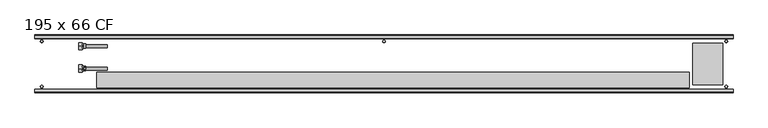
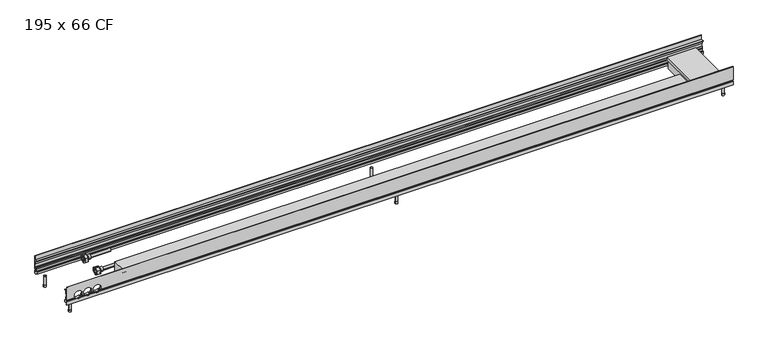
"""IFC4 building model written with IfcOpenShell, lengths in millimetres: proxy geometry, Mohlenhof_Внутрипольный конвектор_QSKM CF : 195 x 66 CF."""

from ifc_helpers import new_model, si_unit, point, frame, frame_2d, origin, place, context, project, spatial, polyline, circle_curve, ellipse_curve, trimmed, segment, composite_curve, outline, extrude, source, transform, mapped, element, save
from ifc_brep_helpers import plane_surface, cylinder_surface, revolved_surface, advanced_brep


def proxy_195_x_66_cf_9923b446(model_context):
    return source(origin(), model_context, "Body", "SolidModel", [
        extrude(outline(composite_curve([segment(trimmed(circle_curve(frame_2d((0.0, -273.5)), 4.5), [point((-4.5, -273.5))], [point((4.5, -273.5))], False, "CARTESIAN"), True, "CONTINUOUS"), segment(trimmed(circle_curve(frame_2d((0.0, -273.5)), 4.5), [point((4.5, -273.5))], [point((-4.5, -273.5))], False, "CARTESIAN"), True, "CONTINUOUS")], self_intersect=False)), frame((0.0, 0.0, -110.0), z_axis=(0.0, 0.0, 1.0), x_axis=(1.0, 0.0, 0.0)), (0.0, 0.0, 1.0), 7.0),
        extrude(outline(composite_curve([segment(trimmed(circle_curve(frame_2d((0.0, -273.5)), 4.0), [point((-4.0, -273.5))], [point((4.0, -273.5))], False, "CARTESIAN"), True, "CONTINUOUS"), segment(trimmed(circle_curve(frame_2d((0.0, -273.5)), 4.0), [point((4.0, -273.5))], [point((-4.0, -273.5))], False, "CARTESIAN"), True, "CONTINUOUS")], self_intersect=False)), frame((0.0, 0.0, -103.0), z_axis=(0.0, 0.0, 1.0), x_axis=(1.0, 0.0, 0.0)), (0.0, 0.0, 1.0), 32.5),
        extrude(outline(composite_curve([segment(trimmed(circle_curve(frame_2d((0.0, -121.5)), 4.5), [point((-4.5, -121.5))], [point((4.5, -121.5))], False, "CARTESIAN"), True, "CONTINUOUS"), segment(trimmed(circle_curve(frame_2d((0.0, -121.5)), 4.5), [point((4.5, -121.5))], [point((-4.5, -121.5))], False, "CARTESIAN"), True, "CONTINUOUS")], self_intersect=False)), frame((0.0, 0.0, -110.0), z_axis=(0.0, 0.0, 1.0), x_axis=(1.0, 0.0, 0.0)), (0.0, 0.0, 1.0), 7.0),
        extrude(outline(composite_curve([segment(trimmed(circle_curve(frame_2d((0.0, -121.5)), 4.0), [point((-4.0, -121.5))], [point((4.0, -121.5))], False, "CARTESIAN"), True, "CONTINUOUS"), segment(trimmed(circle_curve(frame_2d((0.0, -121.5)), 4.0), [point((4.0, -121.5))], [point((-4.0, -121.5))], False, "CARTESIAN"), True, "CONTINUOUS")], self_intersect=False)), frame((0.0, 0.0, -103.0), z_axis=(0.0, 0.0, 1.0), x_axis=(1.0, 0.0, 0.0)), (0.0, 0.0, 1.0), 32.5),
        advanced_brep(
        [(-1014.0, -213.0, -41.0), (-1014.0, -201.0, -41.0), (-1014.0, -225.0, -41.0), (-1001.5, -220.5, -41.0), (-1001.5, -205.5, -41.0), (-1001.5, -213.0, -41.0), (-1009.0, -220.5, -41.0), (-1009.0, -205.5, -41.0)],
        [
            (0, 1),
            (1, 2, circle_curve(frame((-1014.0, -213.0, -41.0), z_axis=(-1.0, 0.0, 0.0), x_axis=(0.0, 1.0, 0.0)), 12.0)),
            (2, 0),
            (2, 1, circle_curve(frame((-1014.0, -213.0, -41.0), z_axis=(-1.0, 0.0, 0.0), x_axis=(0.0, 1.0, 0.0)), 12.0)),
            (3, 4, circle_curve(frame((-1001.5, -213.0, -41.0), z_axis=(1.0, 0.0, 0.0), x_axis=(0.0, 1.0, 0.0)), 7.5)),
            (4, 5),
            (5, 3),
            (4, 3, circle_curve(frame((-1001.5, -213.0, -41.0), z_axis=(1.0, 0.0, 0.0), x_axis=(0.0, 1.0, 0.0)), 7.5)),
            (6, 7, circle_curve(frame((-1009.0, -213.0, -41.0), z_axis=(1.0, 0.0, 0.0), x_axis=(0.0, 1.0, 0.0)), 7.5)),
            (7, 4),
            (3, 6),
            (7, 6, circle_curve(frame((-1009.0, -213.0, -41.0), z_axis=(1.0, 0.0, 0.0), x_axis=(0.0, 1.0, 0.0)), 7.5)),
            (1, 7),
            (6, 2),
        ],
        [
            plane_surface(frame((-1014.0, -213.0, -41.0), z_axis=(-1.0, 0.0, 0.0), x_axis=(0.0, 1.0, 0.0))),
            plane_surface(frame((-1001.5, -213.0, -41.0), z_axis=(1.0, 0.0, 0.0), x_axis=(0.0, 1.0, 0.0))),
            cylinder_surface(frame((-1014.0, -213.0, -41.0), z_axis=(-1.0, 0.0, 0.0), x_axis=(0.0, 1.0, 0.0)), 7.5),
            revolved_surface(polyline([(-1009.0, -205.5, -41.0), (-1014.0, -201.0, -41.0)]), (-1014.0, -213.0, -41.0), (-1.0, 0.0, 0.0)),
        ],
        [
            (0, [[1, 2, 3]]),
            (0, [[-3, 4, -1]]),
            (1, [[5, 6, 7]]),
            (1, [[8, -7, -6]]),
            (2, [[9, 10, -5, 11]]),
            (2, [[12, -11, -8, -10]]),
            (3, [[-2, 13, -9, 14]]),
            (3, [[-4, -14, -12, -13]]),
        ],
    ),
        extrude(outline(polyline([(-213.0, -27.1435935), (-201.0, -34.0717968), (-201.0, -47.9282032), (-213.0, -54.8564065), (-225.0, -47.9282032), (-225.0, -34.0717968), (-213.0, -27.1435935)]), holes=[composite_curve([segment(trimmed(circle_curve(frame_2d((-213.0, -41.0)), 8.5), [point((-204.5, -41.0))], [point((-221.5, -41.0))], True, "CARTESIAN"), True, "CONTINUOUS"), segment(trimmed(circle_curve(frame_2d((-213.0, -41.0)), 8.5), [point((-221.5, -41.0))], [point((-204.5, -41.0))], True, "CARTESIAN"), True, "CONTINUOUS")], self_intersect=False)]), frame((-1025.0, 0.0, 0.0), z_axis=(1.0, 0.0, 0.0), x_axis=(0.0, 1.0, 0.0)), (0.0, 0.0, 1.0), 11.0),
        advanced_brep(
        [(-1014.0, -138.0, -41.0), (-1014.0, -126.0, -41.0), (-1014.0, -150.0, -41.0), (-1001.5, -145.5, -41.0), (-1001.5, -130.5, -41.0), (-1001.5, -138.0, -41.0), (-1009.0, -145.5, -41.0), (-1009.0, -130.5, -41.0)],
        [
            (0, 1),
            (1, 2, circle_curve(frame((-1014.0, -138.0, -41.0), z_axis=(-1.0, 0.0, 0.0), x_axis=(0.0, 1.0, 0.0)), 12.0)),
            (2, 0),
            (2, 1, circle_curve(frame((-1014.0, -138.0, -41.0), z_axis=(-1.0, 0.0, 0.0), x_axis=(0.0, 1.0, 0.0)), 12.0)),
            (3, 4, circle_curve(frame((-1001.5, -138.0, -41.0), z_axis=(1.0, 0.0, 0.0), x_axis=(0.0, 1.0, 0.0)), 7.5)),
            (4, 5),
            (5, 3),
            (4, 3, circle_curve(frame((-1001.5, -138.0, -41.0), z_axis=(1.0, 0.0, 0.0), x_axis=(0.0, 1.0, 0.0)), 7.5)),
            (6, 7, circle_curve(frame((-1009.0, -138.0, -41.0), z_axis=(1.0, 0.0, 0.0), x_axis=(0.0, 1.0, 0.0)), 7.5)),
            (7, 4),
            (3, 6),
            (7, 6, circle_curve(frame((-1009.0, -138.0, -41.0), z_axis=(1.0, 0.0, 0.0), x_axis=(0.0, 1.0, 0.0)), 7.5)),
            (1, 7),
            (6, 2),
        ],
        [
            plane_surface(frame((-1014.0, -138.0, -41.0), z_axis=(-1.0, 0.0, 0.0), x_axis=(0.0, 1.0, 0.0))),
            plane_surface(frame((-1001.5, -138.0, -41.0), z_axis=(1.0, 0.0, 0.0), x_axis=(0.0, 1.0, 0.0))),
            cylinder_surface(frame((-1014.0, -138.0, -41.0), z_axis=(-1.0, 0.0, 0.0), x_axis=(0.0, 1.0, 0.0)), 7.5),
            revolved_surface(polyline([(-1009.0, -130.5, -41.0), (-1014.0, -126.0, -41.0)]), (-1014.0, -138.0, -41.0), (-1.0, 0.0, 0.0)),
        ],
        [
            (0, [[1, 2, 3]]),
            (0, [[-3, 4, -1]]),
            (1, [[5, 6, 7]]),
            (1, [[8, -7, -6]]),
            (2, [[9, 10, -5, 11]]),
            (2, [[12, -11, -8, -10]]),
            (3, [[-2, 13, -9, 14]]),
            (3, [[-4, -14, -12, -13]]),
        ],
    ),
        extrude(outline(polyline([(-138.0, -27.1435935), (-126.0, -34.0717968), (-126.0, -47.9282032), (-138.0, -54.8564065), (-150.0, -47.9282032), (-150.0, -34.0717968), (-138.0, -27.1435935)]), holes=[composite_curve([segment(trimmed(circle_curve(frame_2d((-138.0, -41.0)), 8.5), [point((-129.5, -41.0))], [point((-146.5, -41.0))], True, "CARTESIAN"), True, "CONTINUOUS"), segment(trimmed(circle_curve(frame_2d((-138.0, -41.0)), 8.5), [point((-146.5, -41.0))], [point((-129.5, -41.0))], True, "CARTESIAN"), True, "CONTINUOUS")], self_intersect=False)]), frame((-1025.0, 0.0, 0.0), z_axis=(1.0, 0.0, 0.0), x_axis=(0.0, 1.0, 0.0)), (0.0, 0.0, 1.0), 11.0),
        extrude(outline(composite_curve([segment(trimmed(circle_curve(frame_2d((-1150.0, -273.5)), 4.5), [point((-1154.5, -273.5))], [point((-1145.5, -273.5))], False, "CARTESIAN"), True, "CONTINUOUS"), segment(trimmed(circle_curve(frame_2d((-1150.0, -273.5)), 4.5), [point((-1145.5, -273.5))], [point((-1154.5, -273.5))], False, "CARTESIAN"), True, "CONTINUOUS")], self_intersect=False)), frame((0.0, 0.0, -110.0), z_axis=(0.0, 0.0, 1.0), x_axis=(1.0, 0.0, 0.0)), (0.0, 0.0, 1.0), 7.0),
        extrude(outline(composite_curve([segment(trimmed(circle_curve(frame_2d((-1150.0, -273.5)), 4.0), [point((-1154.0, -273.5))], [point((-1146.0, -273.5))], False, "CARTESIAN"), True, "CONTINUOUS"), segment(trimmed(circle_curve(frame_2d((-1150.0, -273.5)), 4.0), [point((-1146.0, -273.5))], [point((-1154.0, -273.5))], False, "CARTESIAN"), True, "CONTINUOUS")], self_intersect=False)), frame((0.0, 0.0, -103.0), z_axis=(0.0, 0.0, 1.0), x_axis=(1.0, 0.0, 0.0)), (0.0, 0.0, 1.0), 32.5),
        extrude(outline(composite_curve([segment(trimmed(circle_curve(frame_2d((-1150.0, -121.5)), 4.5), [point((-1154.5, -121.5))], [point((-1145.5, -121.5))], False, "CARTESIAN"), True, "CONTINUOUS"), segment(trimmed(circle_curve(frame_2d((-1150.0, -121.5)), 4.5), [point((-1145.5, -121.5))], [point((-1154.5, -121.5))], False, "CARTESIAN"), True, "CONTINUOUS")], self_intersect=False)), frame((0.0, 0.0, -110.0), z_axis=(0.0, 0.0, 1.0), x_axis=(1.0, 0.0, 0.0)), (0.0, 0.0, 1.0), 7.0),
        extrude(outline(composite_curve([segment(trimmed(circle_curve(frame_2d((-1150.0, -121.5)), 4.0), [point((-1154.0, -121.5))], [point((-1146.0, -121.5))], False, "CARTESIAN"), True, "CONTINUOUS"), segment(trimmed(circle_curve(frame_2d((-1150.0, -121.5)), 4.0), [point((-1146.0, -121.5))], [point((-1154.0, -121.5))], False, "CARTESIAN"), True, "CONTINUOUS")], self_intersect=False)), frame((0.0, 0.0, -103.0), z_axis=(0.0, 0.0, 1.0), x_axis=(1.0, 0.0, 0.0)), (0.0, 0.0, 1.0), 32.5),
        extrude(outline(composite_curve([segment(trimmed(circle_curve(frame_2d((1150.0, -273.5)), 4.5), [point((1145.5, -273.5))], [point((1154.5, -273.5))], False, "CARTESIAN"), True, "CONTINUOUS"), segment(trimmed(circle_curve(frame_2d((1150.0, -273.5)), 4.5), [point((1154.5, -273.5))], [point((1145.5, -273.5))], False, "CARTESIAN"), True, "CONTINUOUS")], self_intersect=False)), frame((0.0, 0.0, -110.0), z_axis=(0.0, 0.0, 1.0), x_axis=(1.0, 0.0, 0.0)), (0.0, 0.0, 1.0), 7.0),
        extrude(outline(composite_curve([segment(trimmed(circle_curve(frame_2d((1150.0, -273.5)), 4.0), [point((1146.0, -273.5))], [point((1154.0, -273.5))], False, "CARTESIAN"), True, "CONTINUOUS"), segment(trimmed(circle_curve(frame_2d((1150.0, -273.5)), 4.0), [point((1154.0, -273.5))], [point((1146.0, -273.5))], False, "CARTESIAN"), True, "CONTINUOUS")], self_intersect=False)), frame((0.0, 0.0, -103.0), z_axis=(0.0, 0.0, 1.0), x_axis=(1.0, 0.0, 0.0)), (0.0, 0.0, 1.0), 32.5),
        extrude(outline(composite_curve([segment(trimmed(circle_curve(frame_2d((1150.0, -121.5)), 4.5), [point((1145.5, -121.5))], [point((1154.5, -121.5))], False, "CARTESIAN"), True, "CONTINUOUS"), segment(trimmed(circle_curve(frame_2d((1150.0, -121.5)), 4.5), [point((1154.5, -121.5))], [point((1145.5, -121.5))], False, "CARTESIAN"), True, "CONTINUOUS")], self_intersect=False)), frame((0.0, 0.0, -110.0), z_axis=(0.0, 0.0, 1.0), x_axis=(1.0, 0.0, 0.0)), (0.0, 0.0, 1.0), 7.0),
        extrude(outline(composite_curve([segment(trimmed(circle_curve(frame_2d((1150.0, -121.5)), 4.0), [point((1146.0, -121.5))], [point((1154.0, -121.5))], False, "CARTESIAN"), True, "CONTINUOUS"), segment(trimmed(circle_curve(frame_2d((1150.0, -121.5)), 4.0), [point((1154.0, -121.5))], [point((1146.0, -121.5))], False, "CARTESIAN"), True, "CONTINUOUS")], self_intersect=False)), frame((0.0, 0.0, -103.0), z_axis=(0.0, 0.0, 1.0), x_axis=(1.0, 0.0, 0.0)), (0.0, 0.0, 1.0), 32.5),
        extrude(outline(polyline([(-62.5, 1126.0), (-44.5, 1126.0), (-44.5, 1135.0), (-29.5, 1135.0), (-29.5, 1138.0), (-19.5, 1138.0), (-19.5, 1038.0), (-29.5, 1038.0), (-29.5, 1041.0), (-62.5, 1041.0), (-62.5, 1126.0)])), frame((0.0, -267.5, 0.0), z_axis=(0.0, 1.0, 0.0), x_axis=(0.0, 0.0, 1.0)), (0.0, 0.0, 1.0), 140.0),
        extrude(outline(polyline([(1025.0, -225.87), (1025.0, -277.18), (-965.0, -277.18), (-965.0, -225.87), (1025.0, -225.87)])), frame((0.0, 0.0, -62.5), z_axis=(0.0, 0.0, 1.0), x_axis=(1.0, 0.0, 0.0)), (0.0, 0.0, 1.0), 43.62),
        extrude(outline(composite_curve([segment(trimmed(circle_curve(frame_2d((-213.0, -41.0)), 5.0), [point((-218.0, -41.0))], [point((-208.0, -41.0))], False, "CARTESIAN"), True, "CONTINUOUS"), segment(trimmed(circle_curve(frame_2d((-213.0, -41.0)), 5.0), [point((-208.0, -41.0))], [point((-218.0, -41.0))], False, "CARTESIAN"), True, "CONTINUOUS")], self_intersect=False)), frame((-1025.0, 0.0, 0.0), z_axis=(1.0, 0.0, 0.0), x_axis=(0.0, 1.0, 0.0)), (0.0, 0.0, 1.0), 95.0),
        extrude(outline(composite_curve([segment(trimmed(circle_curve(frame_2d((-138.0, -41.0)), 5.0), [point((-143.0, -41.0))], [point((-133.0, -41.0))], False, "CARTESIAN"), True, "CONTINUOUS"), segment(trimmed(circle_curve(frame_2d((-138.0, -41.0)), 5.0), [point((-133.0, -41.0))], [point((-143.0, -41.0))], False, "CARTESIAN"), True, "CONTINUOUS")], self_intersect=False)), frame((-1025.0, 0.0, 0.0), z_axis=(1.0, 0.0, 0.0), x_axis=(0.0, 1.0, 0.0)), (0.0, 0.0, 1.0), 95.0),
        advanced_brep(
        [(1173.0, -295.0, -48.5473602), (1173.0, -293.5, -49.2468216), (1173.0, -292.5, -49.2468216), (1173.0, -292.5, -46.0008038), (1173.0, -290.0, -46.0008038), (1173.0, -290.0, -56.5008038), (1173.0, -292.5, -56.5008038), (1173.0, -292.5, -53.2468216), (1173.0, -293.5, -53.2468216), (1173.0, -295.0, -53.9462831), (1173.0, -295.0, -66.5), (1173.0, -291.0, -66.5), (1173.0, -291.0, -65.2), (1173.0, -293.0, -65.2), (1173.0, -293.0, -62.5), (1173.0, -282.0, -62.5), (1173.0, -282.0, -54.9172677), (1173.0, -283.4172677, -53.5), (1173.0, -287.0, -53.5), (1173.0, -287.0, -45.91), (1173.0, -289.0, -43.91), (1173.0, -289.0, -39.5), (1173.0, -290.0, -39.5), (1173.0, -290.0, -43.5), (1173.0, -292.4956439, -43.5), (1173.0, -292.4956439, -23.0), (1173.0, -290.0, -23.0), (1173.0, -290.0, -27.0), (1173.0, -289.0, -27.0), (1173.0, -289.0, -17.0), (1173.0, -283.3956439, -17.0), (1173.0, -283.3956439, -15.0), (1173.0, -293.4, -15.0), (1173.0, -293.4, 0.0), (1173.0, -295.0, 0.0), (-1173.0, -295.0, -48.5473602), (-1173.0, -295.0, 0.0), (-1173.0, -293.4, 0.0), (-1173.0, -293.4, -15.0), (-1173.0, -283.3956439, -15.0), (-1173.0, -283.3956439, -17.0), (-1173.0, -289.0, -17.0), (-1173.0, -289.0, -27.0), (-1173.0, -290.0, -27.0), (-1173.0, -290.0, -23.0), (-1173.0, -292.4956439, -23.0), (-1173.0, -292.4956439, -43.5), (-1173.0, -290.0, -43.5), (-1173.0, -290.0, -39.5), (-1173.0, -289.0, -39.5), (-1173.0, -289.0, -43.91), (-1173.0, -287.0, -45.91), (-1173.0, -287.0, -53.5), (-1173.0, -283.4172677, -53.5), (-1173.0, -282.0, -54.9172677), (-1173.0, -282.0, -62.5), (-1173.0, -293.0, -62.5), (-1173.0, -293.0, -65.2), (-1173.0, -291.0, -65.2), (-1173.0, -291.0, -66.5), (-1173.0, -295.0, -66.5), (-1173.0, -295.0, -53.9462831), (-1173.0, -293.5, -53.2468216), (-1173.0, -292.5, -53.2468216), (-1173.0, -292.5, -56.5008038), (-1173.0, -290.0, -56.5008038), (-1173.0, -290.0, -46.0008038), (-1173.0, -292.5, -46.0008038), (-1173.0, -292.5, -49.2468216), (-1173.0, -293.5, -49.2468216), (-1053.7585985, -295.0, -48.5473602), (-1054.155283, -293.5, -49.2468216), (-1145.844717, -293.5, -49.2468216), (-1146.2414015, -295.0, -48.5473602), (-1113.2414015, -295.0, -48.5473602), (-1119.7585985, -295.0, -48.5473602), (-1120.155283, -293.5, -49.2468216), (-1112.844717, -293.5, -49.2468216), (-1080.2414015, -295.0, -48.5473602), (-1086.7585985, -295.0, -48.5473602), (-1087.155283, -293.5, -49.2468216), (-1079.844717, -293.5, -49.2468216), (-1054.155283, -292.5, -49.2468216), (-1145.844717, -292.5, -49.2468216), (-1120.155283, -292.5, -49.2468216), (-1112.844717, -292.5, -49.2468216), (-1087.155283, -292.5, -49.2468216), (-1079.844717, -292.5, -49.2468216), (-1052.6911648, -292.5, -46.0008038), (-1147.3088352, -292.5, -46.0008038), (-1118.6911648, -292.5, -46.0008038), (-1114.3088352, -292.5, -46.0008038), (-1085.6911648, -292.5, -46.0008038), (-1081.3088352, -292.5, -46.0008038), (-1052.6911648, -290.0, -46.0008038), (-1147.3088352, -290.0, -46.0008038), (-1118.6911648, -290.0, -46.0008038), (-1114.3088352, -290.0, -46.0008038), (-1085.6911648, -290.0, -46.0008038), (-1081.3088352, -290.0, -46.0008038), (-1142.328032, -292.5, -53.2468216), (-1123.671968, -292.5, -53.2468216), (-1109.328032, -292.5, -53.2468216), (-1090.671968, -292.5, -53.2468216), (-1076.328032, -292.5, -53.2468216), (-1057.671968, -292.5, -53.2468216), (-1057.671968, -293.5, -53.2468216), (-1142.328032, -293.5, -53.2468216), (-1123.671968, -293.5, -53.2468216), (-1109.328032, -293.5, -53.2468216), (-1090.671968, -293.5, -53.2468216), (-1076.328032, -293.5, -53.2468216), (-1058.6280208, -295.0, -53.9462831), (-1141.3719792, -295.0, -53.9462831), (-1124.6280208, -295.0, -53.9462831), (-1108.3719792, -295.0, -53.9462831), (-1091.6280208, -295.0, -53.9462831), (-1075.3719792, -295.0, -53.9462831), (-1139.7064841, -282.0, -54.9172677), (-1126.2935159, -282.0, -54.9172677), (-1106.7064841, -282.0, -54.9172677), (-1093.2935159, -282.0, -54.9172677), (-1073.7064841, -282.0, -54.9172677), (-1060.2935159, -282.0, -54.9172677), (-1058.0, -283.4172677, -53.5), (-1142.0, -283.4172677, -53.5), (-1124.0, -283.4172677, -53.5), (-1109.0, -283.4172677, -53.5), (-1091.0, -283.4172677, -53.5), (-1076.0, -283.4172677, -53.5), (-1058.0, -287.0, -53.5), (-1142.0, -287.0, -53.5), (-1124.0, -287.0, -53.5), (-1109.0, -287.0, -53.5), (-1091.0, -287.0, -53.5), (-1076.0, -287.0, -53.5), (-1052.6629187, -287.0, -45.91), (-1147.3370813, -287.0, -45.91), (-1118.6629187, -287.0, -45.91), (-1114.3370813, -287.0, -45.91), (-1085.6629187, -287.0, -45.91), (-1081.3370813, -287.0, -45.91), (-1052.1948691, -289.0, -43.91), (-1147.8051309, -289.0, -43.91), (-1118.1948691, -289.0, -43.91), (-1114.8051309, -289.0, -43.91), (-1085.1948691, -289.0, -43.91), (-1081.8051309, -289.0, -43.91), (-1052.0, -289.0, -41.5), (-1052.1339313, -289.0, -39.5), (-1147.8660687, -289.0, -39.5), (-1148.0, -289.0, -41.5), (-1118.0, -289.0, -41.5), (-1118.1339313, -289.0, -39.5), (-1114.8660687, -289.0, -39.5), (-1115.0, -289.0, -41.5), (-1085.0, -289.0, -41.5), (-1085.1339313, -289.0, -39.5), (-1081.8660687, -289.0, -39.5), (-1082.0, -289.0, -41.5), (-1052.1339313, -290.0, -39.5), (-1147.8660687, -290.0, -39.5), (-1118.1339313, -290.0, -39.5), (-1114.8660687, -290.0, -39.5), (-1085.1339313, -290.0, -39.5), (-1081.8660687, -290.0, -39.5), (-1052.0, -290.0, -41.5), (-1052.1339313, -290.0, -43.5), (-1147.8660687, -290.0, -43.5), (-1148.0, -290.0, -41.5), (-1118.0, -290.0, -41.5), (-1118.1339313, -290.0, -43.5), (-1114.8660687, -290.0, -43.5), (-1115.0, -290.0, -41.5), (-1085.0, -290.0, -41.5), (-1085.1339313, -290.0, -43.5), (-1081.8660687, -290.0, -43.5), (-1082.0, -290.0, -41.5), (-1052.1339313, -292.4956439, -43.5), (-1147.8660687, -292.4956439, -43.5), (-1118.1339313, -292.4956439, -43.5), (-1114.8660687, -292.4956439, -43.5), (-1085.1339313, -292.4956439, -43.5), (-1081.8660687, -292.4956439, -43.5), (-1052.0, -292.4956439, -41.5), (-1082.0, -292.4956439, -41.5), (-1085.0, -292.4956439, -41.5), (-1115.0, -292.4956439, -41.5), (-1118.0, -292.4956439, -41.5), (-1148.0, -292.4956439, -41.5), (-1136.8405729, -290.0, -27.0), (-1129.1594271, -290.0, -27.0), (-1103.8405729, -290.0, -27.0), (-1096.1594271, -290.0, -27.0), (-1070.8405729, -290.0, -27.0), (-1063.1594271, -290.0, -27.0), (-1063.1594271, -289.0, -27.0), (-1136.8405729, -289.0, -27.0), (-1129.1594271, -289.0, -27.0), (-1103.8405729, -289.0, -27.0), (-1096.1594271, -289.0, -27.0), (-1070.8405729, -289.0, -27.0), (-1148.0, -295.0, -41.5), (-1118.0, -295.0, -41.5), (-1115.0, -295.0, -41.5), (-1085.0, -295.0, -41.5), (-1082.0, -295.0, -41.5), (-1052.0, -295.0, -41.5)],
        [
            (0, 1),
            (1, 2),
            (2, 3),
            (3, 4),
            (4, 5),
            (5, 6),
            (6, 7),
            (7, 8),
            (8, 9),
            (9, 10),
            (10, 11),
            (11, 12),
            (12, 13),
            (13, 14),
            (14, 15),
            (15, 16),
            (16, 17),
            (17, 18),
            (18, 19),
            (19, 20),
            (20, 21),
            (21, 22),
            (22, 23),
            (23, 24),
            (24, 25),
            (25, 26),
            (26, 27),
            (27, 28),
            (28, 29),
            (29, 30),
            (30, 31),
            (31, 32),
            (32, 33),
            (33, 34),
            (34, 0),
            (35, 36),
            (36, 37),
            (37, 38),
            (38, 39),
            (39, 40),
            (40, 41),
            (41, 42),
            (42, 43),
            (43, 44),
            (44, 45),
            (45, 46),
            (46, 47),
            (47, 48),
            (48, 49),
            (49, 50),
            (50, 51),
            (51, 52),
            (52, 53),
            (53, 54),
            (54, 55),
            (55, 56),
            (56, 57),
            (57, 58),
            (58, 59),
            (59, 60),
            (60, 61),
            (61, 62),
            (62, 63),
            (63, 64),
            (64, 65),
            (65, 66),
            (66, 67),
            (67, 68),
            (68, 69),
            (69, 35),
            (0, 70),
            (70, 71, ellipse_curve(frame((-1067.0, -310.1131126, -41.5), z_axis=(0.0, 0.42261826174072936, 0.9063077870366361), x_axis=(0.0, -0.906307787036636, 0.4226182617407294)), 35.4930237, 15.0)),
            (71, 1),
            (69, 72),
            (72, 73, ellipse_curve(frame((-1133.0, -310.1131126, -41.5), z_axis=(0.0, 0.42261826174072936, 0.9063077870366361), x_axis=(0.0, -0.906307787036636, 0.4226182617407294)), 35.4930237, 15.0)),
            (73, 35),
            (74, 75),
            (75, 76, ellipse_curve(frame((-1133.0, -310.1131126, -41.5), z_axis=(0.0, 0.42261826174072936, 0.9063077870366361), x_axis=(0.0, -0.906307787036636, 0.4226182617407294)), 35.4930237, 15.0)),
            (76, 77),
            (77, 74, ellipse_curve(frame((-1100.0, -310.1131126, -41.5), z_axis=(0.0, 0.42261826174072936, 0.9063077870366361), x_axis=(0.0, -0.906307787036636, 0.4226182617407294)), 35.4930237, 15.0)),
            (78, 79),
            (79, 80, ellipse_curve(frame((-1100.0, -310.1131126, -41.5), z_axis=(0.0, 0.42261826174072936, 0.9063077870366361), x_axis=(0.0, -0.906307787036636, 0.4226182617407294)), 35.4930237, 15.0)),
            (80, 81),
            (81, 78, ellipse_curve(frame((-1067.0, -310.1131126, -41.5), z_axis=(0.0, 0.42261826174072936, 0.9063077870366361), x_axis=(0.0, -0.906307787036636, 0.4226182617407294)), 35.4930237, 15.0)),
            (71, 82),
            (82, 2),
            (68, 83),
            (83, 72),
            (76, 84),
            (84, 85),
            (85, 77),
            (80, 86),
            (86, 87),
            (87, 81),
            (82, 88, circle_curve(frame((-1067.0, -292.5, -41.5), z_axis=(0.0, -1.0, 0.0), x_axis=(1.0, 0.0, 0.0)), 15.0)),
            (88, 3),
            (67, 89),
            (89, 83, circle_curve(frame((-1133.0, -292.5, -41.5), z_axis=(0.0, -1.0, 0.0), x_axis=(1.0, 0.0, 0.0)), 15.0)),
            (84, 90, circle_curve(frame((-1133.0, -292.5, -41.5), z_axis=(0.0, -1.0, 0.0), x_axis=(1.0, 0.0, 0.0)), 15.0)),
            (90, 91),
            (91, 85, circle_curve(frame((-1100.0, -292.5, -41.5), z_axis=(0.0, -1.0, 0.0), x_axis=(1.0, 0.0, 0.0)), 15.0)),
            (86, 92, circle_curve(frame((-1100.0, -292.5, -41.5), z_axis=(0.0, -1.0, 0.0), x_axis=(1.0, 0.0, 0.0)), 15.0)),
            (92, 93),
            (93, 87, circle_curve(frame((-1067.0, -292.5, -41.5), z_axis=(0.0, -1.0, 0.0), x_axis=(1.0, 0.0, 0.0)), 15.0)),
            (88, 94),
            (94, 4),
            (66, 95),
            (95, 89),
            (90, 96),
            (96, 97),
            (97, 91),
            (92, 98),
            (98, 99),
            (99, 93),
            (94, 99, circle_curve(frame((-1067.0, -290.0, -41.5), z_axis=(0.0, 1.0, 0.0), x_axis=(1.0, 0.0, 0.0)), 15.0)),
            (98, 97, circle_curve(frame((-1100.0, -290.0, -41.5), z_axis=(0.0, 1.0, 0.0), x_axis=(1.0, 0.0, 0.0)), 15.0)),
            (96, 95, circle_curve(frame((-1133.0, -290.0, -41.5), z_axis=(0.0, 1.0, 0.0), x_axis=(1.0, 0.0, 0.0)), 15.0)),
            (65, 5),
            (64, 6),
            (63, 100),
            (100, 101, circle_curve(frame((-1133.0, -292.5, -41.5), z_axis=(0.0, -1.0, 0.0), x_axis=(1.0, 0.0, 0.0)), 15.0)),
            (101, 102),
            (102, 103, circle_curve(frame((-1100.0, -292.5, -41.5), z_axis=(0.0, -1.0, 0.0), x_axis=(1.0, 0.0, 0.0)), 15.0)),
            (103, 104),
            (104, 105, circle_curve(frame((-1067.0, -292.5, -41.5), z_axis=(0.0, -1.0, 0.0), x_axis=(1.0, 0.0, 0.0)), 15.0)),
            (105, 7),
            (105, 106),
            (106, 8),
            (62, 107),
            (107, 100),
            (101, 108),
            (108, 109),
            (109, 102),
            (103, 110),
            (110, 111),
            (111, 104),
            (106, 112, ellipse_curve(frame((-1067.0, -268.3088597, -41.5), z_axis=(0.0, 0.4226182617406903, -0.9063077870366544), x_axis=(0.0, -0.9063077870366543, -0.42261826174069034)), 35.4930237, 15.0)),
            (112, 9),
            (61, 113),
            (113, 107, ellipse_curve(frame((-1133.0, -268.3088597, -41.5), z_axis=(0.0, 0.4226182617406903, -0.9063077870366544), x_axis=(0.0, -0.9063077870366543, -0.42261826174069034)), 35.4930237, 15.0)),
            (108, 114, ellipse_curve(frame((-1133.0, -268.3088597, -41.5), z_axis=(0.0, 0.4226182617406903, -0.9063077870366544), x_axis=(0.0, -0.9063077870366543, -0.42261826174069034)), 35.4930237, 15.0)),
            (114, 115),
            (115, 109, ellipse_curve(frame((-1100.0, -268.3088597, -41.5), z_axis=(0.0, 0.4226182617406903, -0.9063077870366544), x_axis=(0.0, -0.9063077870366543, -0.42261826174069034)), 35.4930237, 15.0)),
            (110, 116, ellipse_curve(frame((-1100.0, -268.3088597, -41.5), z_axis=(0.0, 0.4226182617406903, -0.9063077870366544), x_axis=(0.0, -0.9063077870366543, -0.42261826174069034)), 35.4930237, 15.0)),
            (116, 117),
            (117, 111, ellipse_curve(frame((-1067.0, -268.3088597, -41.5), z_axis=(0.0, 0.4226182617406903, -0.9063077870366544), x_axis=(0.0, -0.9063077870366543, -0.42261826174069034)), 35.4930237, 15.0)),
            (112, 117, circle_curve(frame((-1067.0, -295.0, -41.5), z_axis=(0.0, 1.0, 0.0), x_axis=(1.0, 0.0, 0.0)), 15.0)),
            (116, 115, circle_curve(frame((-1100.0, -295.0, -41.5), z_axis=(0.0, 1.0, 0.0), x_axis=(1.0, 0.0, 0.0)), 15.0)),
            (114, 113, circle_curve(frame((-1133.0, -295.0, -41.5), z_axis=(0.0, 1.0, 0.0), x_axis=(1.0, 0.0, 0.0)), 15.0)),
            (60, 10),
            (59, 11),
            (58, 12),
            (57, 13),
            (56, 14),
            (55, 15),
            (54, 118),
            (118, 119, circle_curve(frame((-1133.0, -282.0, -41.5), z_axis=(0.0, -1.0, 0.0), x_axis=(1.0, 0.0, 0.0)), 15.0)),
            (119, 120),
            (120, 121, circle_curve(frame((-1100.0, -282.0, -41.5), z_axis=(0.0, -1.0, 0.0), x_axis=(1.0, 0.0, 0.0)), 15.0)),
            (121, 122),
            (122, 123, circle_curve(frame((-1067.0, -282.0, -41.5), z_axis=(0.0, -1.0, 0.0), x_axis=(1.0, 0.0, 0.0)), 15.0)),
            (123, 16),
            (123, 124, ellipse_curve(frame((-1067.0, -295.4172677, -41.5), z_axis=(0.0, -0.7071067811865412, -0.7071067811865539), x_axis=(0.0, -0.7071067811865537, 0.7071067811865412)), 21.2132034, 15.0)),
            (124, 17),
            (53, 125),
            (125, 118, ellipse_curve(frame((-1133.0, -295.4172677, -41.5), z_axis=(0.0, -0.7071067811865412, -0.7071067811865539), x_axis=(0.0, -0.7071067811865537, 0.7071067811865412)), 21.2132034, 15.0)),
            (119, 126, ellipse_curve(frame((-1133.0, -295.4172677, -41.5), z_axis=(0.0, -0.7071067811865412, -0.7071067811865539), x_axis=(0.0, -0.7071067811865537, 0.7071067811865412)), 21.2132034, 15.0)),
            (126, 127),
            (127, 120, ellipse_curve(frame((-1100.0, -295.4172677, -41.5), z_axis=(0.0, -0.7071067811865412, -0.7071067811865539), x_axis=(0.0, -0.7071067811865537, 0.7071067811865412)), 21.2132034, 15.0)),
            (121, 128, ellipse_curve(frame((-1100.0, -295.4172677, -41.5), z_axis=(0.0, -0.7071067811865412, -0.7071067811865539), x_axis=(0.0, -0.7071067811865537, 0.7071067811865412)), 21.2132034, 15.0)),
            (128, 129),
            (129, 122, ellipse_curve(frame((-1067.0, -295.4172677, -41.5), z_axis=(0.0, -0.7071067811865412, -0.7071067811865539), x_axis=(0.0, -0.7071067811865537, 0.7071067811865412)), 21.2132034, 15.0)),
            (124, 130),
            (130, 18),
            (52, 131),
            (131, 125),
            (126, 132),
            (132, 133),
            (133, 127),
            (128, 134),
            (134, 135),
            (135, 129),
            (130, 136, circle_curve(frame((-1067.0, -287.0, -41.5), z_axis=(0.0, -1.0, 0.0), x_axis=(1.0, 0.0, 0.0)), 15.0)),
            (136, 19),
            (51, 137),
            (137, 131, circle_curve(frame((-1133.0, -287.0, -41.5), z_axis=(0.0, -1.0, 0.0), x_axis=(1.0, 0.0, 0.0)), 15.0)),
            (132, 138, circle_curve(frame((-1133.0, -287.0, -41.5), z_axis=(0.0, -1.0, 0.0), x_axis=(1.0, 0.0, 0.0)), 15.0)),
            (138, 139),
            (139, 133, circle_curve(frame((-1100.0, -287.0, -41.5), z_axis=(0.0, -1.0, 0.0), x_axis=(1.0, 0.0, 0.0)), 15.0)),
            (134, 140, circle_curve(frame((-1100.0, -287.0, -41.5), z_axis=(0.0, -1.0, 0.0), x_axis=(1.0, 0.0, 0.0)), 15.0)),
            (140, 141),
            (141, 135, circle_curve(frame((-1067.0, -287.0, -41.5), z_axis=(0.0, -1.0, 0.0), x_axis=(1.0, 0.0, 0.0)), 15.0)),
            (136, 142, ellipse_curve(frame((-1067.0, -291.41, -41.5), z_axis=(0.0, -0.7071067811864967, -0.7071067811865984), x_axis=(0.0, -0.7071067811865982, 0.7071067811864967)), 21.2132034, 15.0)),
            (142, 20),
            (50, 143),
            (143, 137, ellipse_curve(frame((-1133.0, -291.41, -41.5), z_axis=(0.0, -0.7071067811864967, -0.7071067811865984), x_axis=(0.0, -0.7071067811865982, 0.7071067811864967)), 21.2132034, 15.0)),
            (138, 144, ellipse_curve(frame((-1133.0, -291.41, -41.5), z_axis=(0.0, -0.7071067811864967, -0.7071067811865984), x_axis=(0.0, -0.7071067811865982, 0.7071067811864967)), 21.2132034, 15.0)),
            (144, 145),
            (145, 139, ellipse_curve(frame((-1100.0, -291.41, -41.5), z_axis=(0.0, -0.7071067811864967, -0.7071067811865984), x_axis=(0.0, -0.7071067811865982, 0.7071067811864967)), 21.2132034, 15.0)),
            (140, 146, ellipse_curve(frame((-1100.0, -291.41, -41.5), z_axis=(0.0, -0.7071067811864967, -0.7071067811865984), x_axis=(0.0, -0.7071067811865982, 0.7071067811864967)), 21.2132034, 15.0)),
            (146, 147),
            (147, 141, ellipse_curve(frame((-1067.0, -291.41, -41.5), z_axis=(0.0, -0.7071067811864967, -0.7071067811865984), x_axis=(0.0, -0.7071067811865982, 0.7071067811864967)), 21.2132034, 15.0)),
            (142, 148, circle_curve(frame((-1067.0, -289.0, -41.5), z_axis=(0.0, -1.0, 0.0), x_axis=(1.0, 0.0, 0.0)), 15.0)),
            (148, 149, circle_curve(frame((-1067.0, -289.0, -41.5), z_axis=(0.0, -1.0, 0.0), x_axis=(1.0, 0.0, 0.0)), 15.0)),
            (149, 21),
            (49, 150),
            (150, 151, circle_curve(frame((-1133.0, -289.0, -41.5), z_axis=(0.0, -1.0, 0.0), x_axis=(1.0, 0.0, 0.0)), 15.0)),
            (151, 143, circle_curve(frame((-1133.0, -289.0, -41.5), z_axis=(0.0, -1.0, 0.0), x_axis=(1.0, 0.0, 0.0)), 15.0)),
            (144, 152, circle_curve(frame((-1133.0, -289.0, -41.5), z_axis=(0.0, -1.0, 0.0), x_axis=(1.0, 0.0, 0.0)), 15.0)),
            (152, 153, circle_curve(frame((-1133.0, -289.0, -41.5), z_axis=(0.0, -1.0, 0.0), x_axis=(1.0, 0.0, 0.0)), 15.0)),
            (153, 154),
            (154, 155, circle_curve(frame((-1100.0, -289.0, -41.5), z_axis=(0.0, -1.0, 0.0), x_axis=(1.0, 0.0, 0.0)), 15.0)),
            (155, 145, circle_curve(frame((-1100.0, -289.0, -41.5), z_axis=(0.0, -1.0, 0.0), x_axis=(1.0, 0.0, 0.0)), 15.0)),
            (146, 156, circle_curve(frame((-1100.0, -289.0, -41.5), z_axis=(0.0, -1.0, 0.0), x_axis=(1.0, 0.0, 0.0)), 15.0)),
            (156, 157, circle_curve(frame((-1100.0, -289.0, -41.5), z_axis=(0.0, -1.0, 0.0), x_axis=(1.0, 0.0, 0.0)), 15.0)),
            (157, 158),
            (158, 159, circle_curve(frame((-1067.0, -289.0, -41.5), z_axis=(0.0, -1.0, 0.0), x_axis=(1.0, 0.0, 0.0)), 15.0)),
            (159, 147, circle_curve(frame((-1067.0, -289.0, -41.5), z_axis=(0.0, -1.0, 0.0), x_axis=(1.0, 0.0, 0.0)), 15.0)),
            (149, 160),
            (160, 22),
            (48, 161),
            (161, 150),
            (153, 162),
            (162, 163),
            (163, 154),
            (157, 164),
            (164, 165),
            (165, 158),
            (160, 166, circle_curve(frame((-1067.0, -290.0, -41.5), z_axis=(0.0, 1.0, 0.0), x_axis=(1.0, 0.0, 0.0)), 15.0)),
            (166, 167, circle_curve(frame((-1067.0, -290.0, -41.5), z_axis=(0.0, 1.0, 0.0), x_axis=(1.0, 0.0, 0.0)), 15.0)),
            (167, 23),
            (47, 168),
            (168, 169, circle_curve(frame((-1133.0, -290.0, -41.5), z_axis=(0.0, 1.0, 0.0), x_axis=(1.0, 0.0, 0.0)), 15.0)),
            (169, 161, circle_curve(frame((-1133.0, -290.0, -41.5), z_axis=(0.0, 1.0, 0.0), x_axis=(1.0, 0.0, 0.0)), 15.0)),
            (162, 170, circle_curve(frame((-1133.0, -290.0, -41.5), z_axis=(0.0, 1.0, 0.0), x_axis=(1.0, 0.0, 0.0)), 15.0)),
            (170, 171, circle_curve(frame((-1133.0, -290.0, -41.5), z_axis=(0.0, 1.0, 0.0), x_axis=(1.0, 0.0, 0.0)), 15.0)),
            (171, 172),
            (172, 173, circle_curve(frame((-1100.0, -290.0, -41.5), z_axis=(0.0, 1.0, 0.0), x_axis=(1.0, 0.0, 0.0)), 15.0)),
            (173, 163, circle_curve(frame((-1100.0, -290.0, -41.5), z_axis=(0.0, 1.0, 0.0), x_axis=(1.0, 0.0, 0.0)), 15.0)),
            (164, 174, circle_curve(frame((-1100.0, -290.0, -41.5), z_axis=(0.0, 1.0, 0.0), x_axis=(1.0, 0.0, 0.0)), 15.0)),
            (174, 175, circle_curve(frame((-1100.0, -290.0, -41.5), z_axis=(0.0, 1.0, 0.0), x_axis=(1.0, 0.0, 0.0)), 15.0)),
            (175, 176),
            (176, 177, circle_curve(frame((-1067.0, -290.0, -41.5), z_axis=(0.0, 1.0, 0.0), x_axis=(1.0, 0.0, 0.0)), 15.0)),
            (177, 165, circle_curve(frame((-1067.0, -290.0, -41.5), z_axis=(0.0, 1.0, 0.0), x_axis=(1.0, 0.0, 0.0)), 15.0)),
            (167, 178),
            (178, 24),
            (46, 179),
            (179, 168),
            (171, 180),
            (180, 181),
            (181, 172),
            (175, 182),
            (182, 183),
            (183, 176),
            (178, 184, circle_curve(frame((-1067.0, -292.4956439, -41.5), z_axis=(0.0, -1.0, 0.0), x_axis=(1.0, 0.0, 0.0)), 15.0)),
            (184, 185, circle_curve(frame((-1067.0, -292.4956439, -41.5), z_axis=(0.0, -1.0, 0.0), x_axis=(1.0, 0.0, 0.0)), 15.0)),
            (185, 183, circle_curve(frame((-1067.0, -292.4956439, -41.5), z_axis=(0.0, -1.0, 0.0), x_axis=(1.0, 0.0, 0.0)), 15.0)),
            (182, 186, circle_curve(frame((-1100.0, -292.4956439, -41.5), z_axis=(0.0, -1.0, 0.0), x_axis=(1.0, 0.0, 0.0)), 15.0)),
            (186, 187, circle_curve(frame((-1100.0, -292.4956439, -41.5), z_axis=(0.0, -1.0, 0.0), x_axis=(1.0, 0.0, 0.0)), 15.0)),
            (187, 181, circle_curve(frame((-1100.0, -292.4956439, -41.5), z_axis=(0.0, -1.0, 0.0), x_axis=(1.0, 0.0, 0.0)), 15.0)),
            (180, 188, circle_curve(frame((-1133.0, -292.4956439, -41.5), z_axis=(0.0, -1.0, 0.0), x_axis=(1.0, 0.0, 0.0)), 15.0)),
            (188, 189, circle_curve(frame((-1133.0, -292.4956439, -41.5), z_axis=(0.0, -1.0, 0.0), x_axis=(1.0, 0.0, 0.0)), 15.0)),
            (189, 179, circle_curve(frame((-1133.0, -292.4956439, -41.5), z_axis=(0.0, -1.0, 0.0), x_axis=(1.0, 0.0, 0.0)), 15.0)),
            (45, 25),
            (44, 26),
            (43, 190),
            (190, 191, circle_curve(frame((-1133.0, -290.0, -41.5), z_axis=(0.0, 1.0, 0.0), x_axis=(1.0, 0.0, 0.0)), 15.0)),
            (191, 192),
            (192, 193, circle_curve(frame((-1100.0, -290.0, -41.5), z_axis=(0.0, 1.0, 0.0), x_axis=(1.0, 0.0, 0.0)), 15.0)),
            (193, 194),
            (194, 195, circle_curve(frame((-1067.0, -290.0, -41.5), z_axis=(0.0, 1.0, 0.0), x_axis=(1.0, 0.0, 0.0)), 15.0)),
            (195, 27),
            (195, 196),
            (196, 28),
            (42, 197),
            (197, 190),
            (191, 198),
            (198, 199),
            (199, 192),
            (193, 200),
            (200, 201),
            (201, 194),
            (196, 201, circle_curve(frame((-1067.0, -289.0, -41.5), z_axis=(0.0, -1.0, 0.0), x_axis=(1.0, 0.0, 0.0)), 15.0)),
            (200, 199, circle_curve(frame((-1100.0, -289.0, -41.5), z_axis=(0.0, -1.0, 0.0), x_axis=(1.0, 0.0, 0.0)), 15.0)),
            (198, 197, circle_curve(frame((-1133.0, -289.0, -41.5), z_axis=(0.0, -1.0, 0.0), x_axis=(1.0, 0.0, 0.0)), 15.0)),
            (41, 29),
            (40, 30),
            (39, 31),
            (38, 32),
            (37, 33),
            (36, 34),
            (73, 202, circle_curve(frame((-1133.0, -295.0, -41.5), z_axis=(0.0, 1.0, 0.0), x_axis=(1.0, 0.0, 0.0)), 15.0)),
            (202, 203, circle_curve(frame((-1133.0, -295.0, -41.5), z_axis=(0.0, 1.0, 0.0), x_axis=(1.0, 0.0, 0.0)), 15.0)),
            (203, 75, circle_curve(frame((-1133.0, -295.0, -41.5), z_axis=(0.0, 1.0, 0.0), x_axis=(1.0, 0.0, 0.0)), 15.0)),
            (74, 204, circle_curve(frame((-1100.0, -295.0, -41.5), z_axis=(0.0, 1.0, 0.0), x_axis=(1.0, 0.0, 0.0)), 15.0)),
            (204, 205, circle_curve(frame((-1100.0, -295.0, -41.5), z_axis=(0.0, 1.0, 0.0), x_axis=(1.0, 0.0, 0.0)), 15.0)),
            (205, 79, circle_curve(frame((-1100.0, -295.0, -41.5), z_axis=(0.0, 1.0, 0.0), x_axis=(1.0, 0.0, 0.0)), 15.0)),
            (78, 206, circle_curve(frame((-1067.0, -295.0, -41.5), z_axis=(0.0, 1.0, 0.0), x_axis=(1.0, 0.0, 0.0)), 15.0)),
            (206, 207, circle_curve(frame((-1067.0, -295.0, -41.5), z_axis=(0.0, 1.0, 0.0), x_axis=(1.0, 0.0, 0.0)), 15.0)),
            (207, 70, circle_curve(frame((-1067.0, -295.0, -41.5), z_axis=(0.0, 1.0, 0.0), x_axis=(1.0, 0.0, 0.0)), 15.0)),
            (151, 169),
            (189, 202),
            (203, 188),
            (170, 152),
            (155, 173),
            (187, 204),
            (205, 186),
            (174, 156),
            (159, 177),
            (185, 206),
            (207, 184),
            (166, 148),
        ],
        [
            plane_surface(frame((1173.0, -293.0, -62.5), z_axis=(1.0, 0.0, 0.0), x_axis=(0.0, 0.0, 1.0))),
            plane_surface(frame((-1173.0, -293.0, -62.5), z_axis=(-1.0, 0.0, 0.0), x_axis=(0.0, 0.0, 1.0))),
            plane_surface(frame((1173.0, -295.0, -48.5473602), z_axis=(0.0, -0.42261826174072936, -0.9063077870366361), x_axis=(-1.0, 0.0, 0.0))),
            plane_surface(frame((1173.0, -293.5, -49.2468216), z_axis=(0.0, 0.0, -1.0), x_axis=(-1.0, 0.0, 0.0))),
            plane_surface(frame((1173.0, -292.5, -49.2468216), z_axis=(0.0, 1.0, 0.0), x_axis=(-1.0, 0.0, 0.0))),
            plane_surface(frame((1173.0, -292.5, -46.0008038), z_axis=(0.0, 0.0, -1.0), x_axis=(-1.0, 0.0, 0.0))),
            plane_surface(frame((1173.0, -290.0, -46.0008038), z_axis=(0.0, -1.0, 0.0), x_axis=(-1.0, 0.0, 0.0))),
            plane_surface(frame((1173.0, -290.0, -56.5008038), z_axis=(0.0, 0.0, 1.0), x_axis=(-1.0, 0.0, 0.0))),
            plane_surface(frame((1173.0, -292.5, -56.5008038), z_axis=(0.0, 1.0, 0.0), x_axis=(-1.0, 0.0, 0.0))),
            plane_surface(frame((1173.0, -292.5, -53.2468216), z_axis=(0.0, 0.0, 1.0), x_axis=(-1.0, 0.0, 0.0))),
            plane_surface(frame((1173.0, -293.5, -53.2468216), z_axis=(0.0, -0.4226182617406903, 0.9063077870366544), x_axis=(-1.0, 0.0, 0.0))),
            plane_surface(frame((1173.0, -295.0, -53.9462831), z_axis=(0.0, -1.0, 0.0), x_axis=(-1.0, 0.0, 0.0))),
            plane_surface(frame((1173.0, -295.0, -66.5), z_axis=(0.0, 0.0, -1.0), x_axis=(-1.0, 0.0, 0.0))),
            plane_surface(frame((1173.0, -291.0, -66.5), z_axis=(0.0, 1.0, 0.0), x_axis=(-1.0, 0.0, 0.0))),
            plane_surface(frame((1173.0, -291.0, -65.2), z_axis=(0.0, 0.0, 1.0), x_axis=(-1.0, 0.0, 0.0))),
            plane_surface(frame((1173.0, -293.0, -65.2), z_axis=(0.0, 1.0, 0.0), x_axis=(-1.0, 0.0, 0.0))),
            plane_surface(frame((1173.0, -293.0, -62.5), z_axis=(0.0, 0.0, -1.0), x_axis=(-1.0, 0.0, 0.0))),
            plane_surface(frame((1173.0, -282.0, -62.5), z_axis=(0.0, 1.0, 0.0), x_axis=(-1.0, 0.0, 0.0))),
            plane_surface(frame((1173.0, -282.0, -54.9172677), z_axis=(0.0, 0.7071067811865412, 0.7071067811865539), x_axis=(-1.0, 0.0, 0.0))),
            plane_surface(frame((1173.0, -283.4172677, -53.5), z_axis=(0.0, 0.0, 1.0), x_axis=(-1.0, 0.0, 0.0))),
            plane_surface(frame((1173.0, -287.0, -53.5), z_axis=(0.0, 1.0, 0.0), x_axis=(-1.0, 0.0, 0.0))),
            plane_surface(frame((1173.0, -287.0, -45.91), z_axis=(0.0, 0.7071067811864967, 0.7071067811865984), x_axis=(-1.0, 0.0, 0.0))),
            plane_surface(frame((1173.0, -289.0, -43.91), z_axis=(0.0, 1.0, 0.0), x_axis=(-1.0, 0.0, 0.0))),
            plane_surface(frame((1173.0, -289.0, -39.5), z_axis=(0.0, 0.0, 1.0), x_axis=(-1.0, 0.0, 0.0))),
            plane_surface(frame((1173.0, -290.0, -39.5), z_axis=(0.0, -1.0, 0.0), x_axis=(-1.0, 0.0, 0.0))),
            plane_surface(frame((1173.0, -290.0, -43.5), z_axis=(0.0, 0.0, 1.0), x_axis=(-1.0, 0.0, 0.0))),
            plane_surface(frame((1173.0, -292.4956439, -43.5), z_axis=(0.0, 1.0, 0.0), x_axis=(-1.0, 0.0, 0.0))),
            plane_surface(frame((1173.0, -292.4956439, -23.0), z_axis=(0.0, 0.0, -1.0), x_axis=(-1.0, 0.0, 0.0))),
            plane_surface(frame((1173.0, -290.0, -23.0), z_axis=(0.0, -1.0, 0.0), x_axis=(-1.0, 0.0, 0.0))),
            plane_surface(frame((1173.0, -290.0, -27.0), z_axis=(0.0, 0.0, -1.0), x_axis=(-1.0, 0.0, 0.0))),
            plane_surface(frame((1173.0, -289.0, -27.0), z_axis=(0.0, 1.0, 0.0), x_axis=(-1.0, 0.0, 0.0))),
            plane_surface(frame((1173.0, -289.0, -17.0), z_axis=(0.0, 0.0, -1.0), x_axis=(-1.0, 0.0, 0.0))),
            plane_surface(frame((1173.0, -283.3956439, -17.0), z_axis=(0.0, 1.0, 0.0), x_axis=(-1.0, 0.0, 0.0))),
            plane_surface(frame((1173.0, -283.3956439, -15.0), z_axis=(0.0, 0.0, 1.0), x_axis=(-1.0, 0.0, 0.0))),
            plane_surface(frame((1173.0, -293.4, -15.0), z_axis=(0.0, 1.0, 0.0), x_axis=(-1.0, 0.0, 0.0))),
            plane_surface(frame((1173.0, -293.4, 0.0), z_axis=(0.0, 0.0, 1.0), x_axis=(-1.0, 0.0, 0.0))),
            plane_surface(frame((1173.0, -295.0, 0.0), z_axis=(0.0, -1.0, 0.0), x_axis=(-1.0, 0.0, 0.0))),
            revolved_surface(polyline([(-1118.0, -300.47646346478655, -41.5), (-1118.0, -236.1412559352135, -41.5)]), (-1133.0, -263.0, -41.5), (0.0, -1.0, 0.0)),
            revolved_surface(polyline([(-1118.0, -342.2807163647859, -41.5), (-1118.0, -276.41000002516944, -41.5)]), (-1133.0, -263.0, -41.5), (0.0, -1.0, 0.0)),
            revolved_surface(polyline([(-1118.0, -290.0, -41.5), (-1118.0, -289.0, -41.5)]), (-1133.0, -263.0, -41.5), (0.0, -1.0, 0.0)),
            revolved_surface(polyline([(-1118.0, -295.0, -41.5), (-1118.0, -292.4956439, -41.5)]), (-1133.0, -263.0, -41.5), (0.0, -1.0, 0.0)),
            revolved_surface(polyline([(-1085.0, -300.47646346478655, -41.5), (-1085.0, -236.1412559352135, -41.5)]), (-1100.0, 0.0, -41.5), (0.0, -1.0, 0.0)),
            revolved_surface(polyline([(-1085.0, -342.2807163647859, -41.5), (-1085.0, -276.41000002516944, -41.5)]), (-1100.0, 0.0, -41.5), (0.0, -1.0, 0.0)),
            revolved_surface(polyline([(-1085.0, -290.0, -41.5), (-1085.0, -289.0, -41.5)]), (-1100.0, 0.0, -41.5), (0.0, -1.0, 0.0)),
            revolved_surface(polyline([(-1085.0, -295.0, -41.5), (-1085.0, -292.4956439, -41.5)]), (-1100.0, 0.0, -41.5), (0.0, -1.0, 0.0)),
            revolved_surface(polyline([(-1052.0, -300.47646346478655, -41.5), (-1052.0, -236.1412559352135, -41.5)]), (-1067.0, 0.0, -41.5), (0.0, -1.0, 0.0)),
            revolved_surface(polyline([(-1052.0, -342.2807163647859, -41.5), (-1052.0, -276.41000002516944, -41.5)]), (-1067.0, 0.0, -41.5), (0.0, -1.0, 0.0)),
            revolved_surface(polyline([(-1052.0, -290.0, -41.5), (-1052.0, -289.0, -41.5)]), (-1067.0, 0.0, -41.5), (0.0, -1.0, 0.0)),
            revolved_surface(polyline([(-1052.0, -295.0, -41.5), (-1052.0, -292.4956439, -41.5)]), (-1067.0, 0.0, -41.5), (0.0, -1.0, 0.0)),
        ],
        [
            (0, [[1, 2, 3, 4, 5, 6, 7, 8, 9, 10, 11, 12, 13, 14, 15, 16, 17, 18, 19, 20, 21, 22, 23, 24, 25, 26, 27, 28, 29, 30, 31, 32, 33, 34, 35]]),
            (1, [[36, 37, 38, 39, 40, 41, 42, 43, 44, 45, 46, 47, 48, 49, 50, 51, 52, 53, 54, 55, 56, 57, 58, 59, 60, 61, 62, 63, 64, 65, 66, 67, 68, 69, 70]]),
            (2, [[-1, 71, 72, 73]]),
            (2, [[-70, 74, 75, 76]]),
            (2, [[77, 78, 79, 80]]),
            (2, [[81, 82, 83, 84]]),
            (3, [[-2, -73, 85, 86]]),
            (3, [[-69, 87, 88, -74]]),
            (3, [[-79, 89, 90, 91]]),
            (3, [[-83, 92, 93, 94]]),
            (4, [[-3, -86, 95, 96]]),
            (4, [[-68, 97, 98, -87]]),
            (4, [[-90, 99, 100, 101]]),
            (4, [[-93, 102, 103, 104]]),
            (5, [[-4, -96, 105, 106]]),
            (5, [[-67, 107, 108, -97]]),
            (5, [[-100, 109, 110, 111]]),
            (5, [[-103, 112, 113, 114]]),
            (6, [[-5, -106, 115, -113, 116, -110, 117, -107, -66, 118]]),
            (7, [[-6, -118, -65, 119]]),
            (8, [[-7, -119, -64, 120, 121, 122, 123, 124, 125, 126]]),
            (9, [[-8, -126, 127, 128]]),
            (9, [[-63, 129, 130, -120]]),
            (9, [[-122, 131, 132, 133]]),
            (9, [[-124, 134, 135, 136]]),
            (10, [[-9, -128, 137, 138]]),
            (10, [[-62, 139, 140, -129]]),
            (10, [[-132, 141, 142, 143]]),
            (10, [[-135, 144, 145, 146]]),
            (11, [[-10, -138, 147, -145, 148, -142, 149, -139, -61, 150]]),
            (12, [[-11, -150, -60, 151]]),
            (13, [[-12, -151, -59, 152]]),
            (14, [[-13, -152, -58, 153]]),
            (15, [[-14, -153, -57, 154]]),
            (16, [[-15, -154, -56, 155]]),
            (17, [[-16, -155, -55, 156, 157, 158, 159, 160, 161, 162]]),
            (18, [[-17, -162, 163, 164]]),
            (18, [[-54, 165, 166, -156]]),
            (18, [[-158, 167, 168, 169]]),
            (18, [[-160, 170, 171, 172]]),
            (19, [[-18, -164, 173, 174]]),
            (19, [[-53, 175, 176, -165]]),
            (19, [[-168, 177, 178, 179]]),
            (19, [[-171, 180, 181, 182]]),
            (20, [[-19, -174, 183, 184]]),
            (20, [[-52, 185, 186, -175]]),
            (20, [[-178, 187, 188, 189]]),
            (20, [[-181, 190, 191, 192]]),
            (21, [[-20, -184, 193, 194]]),
            (21, [[-51, 195, 196, -185]]),
            (21, [[-188, 197, 198, 199]]),
            (21, [[-191, 200, 201, 202]]),
            (22, [[-21, -194, 203, 204, 205]]),
            (22, [[-50, 206, 207, 208, -195]]),
            (22, [[-198, 209, 210, 211, 212, 213]]),
            (22, [[-201, 214, 215, 216, 217, 218]]),
            (23, [[-22, -205, 219, 220]]),
            (23, [[-49, 221, 222, -206]]),
            (23, [[-211, 223, 224, 225]]),
            (23, [[-216, 226, 227, 228]]),
            (24, [[-23, -220, 229, 230, 231]]),
            (24, [[-48, 232, 233, 234, -221]]),
            (24, [[-224, 235, 236, 237, 238, 239]]),
            (24, [[-227, 240, 241, 242, 243, 244]]),
            (25, [[-24, -231, 245, 246]]),
            (25, [[-47, 247, 248, -232]]),
            (25, [[-237, 249, 250, 251]]),
            (25, [[-242, 252, 253, 254]]),
            (26, [[-25, -246, 255, 256, 257, -253, 258, 259, 260, -250, 261, 262, 263, -247, -46, 264]]),
            (27, [[-26, -264, -45, 265]]),
            (28, [[-27, -265, -44, 266, 267, 268, 269, 270, 271, 272]]),
            (29, [[-28, -272, 273, 274]]),
            (29, [[-43, 275, 276, -266]]),
            (29, [[-268, 277, 278, 279]]),
            (29, [[-270, 280, 281, 282]]),
            (30, [[-29, -274, 283, -281, 284, -278, 285, -275, -42, 286]]),
            (31, [[-30, -286, -41, 287]]),
            (32, [[-31, -287, -40, 288]]),
            (33, [[-32, -288, -39, 289]]),
            (34, [[-33, -289, -38, 290]]),
            (35, [[-34, -290, -37, 291]]),
            (36, [[-35, -291, -36, -76, 292, 293, 294, -77, 295, 296, 297, -81, 298, 299, 300, -71]]),
            (37, [[-121, -130, -140, -149, -141, -131]]),
            (38, [[301, -233, -248, -263, 302, -292, -75, -88, -98, -108, -117, -109, -99, -89, -78, -294, 303, -261, -249, -236, 304, -209, -197, -187, -177, -167, -157, -166, -176, -186, -196, -208]]),
            (39, [[-267, -276, -285, -277]]),
            (39, [[-301, -207, -222, -234]]),
            (40, [[-302, -262, -303, -293]]),
            (39, [[-304, -235, -223, -210]]),
            (41, [[-123, -133, -143, -148, -144, -134]]),
            (42, [[305, -238, -251, -260, 306, -295, -80, -91, -101, -111, -116, -112, -102, -92, -82, -297, 307, -258, -252, -241, 308, -214, -200, -190, -180, -170, -159, -169, -179, -189, -199, -213]]),
            (43, [[-269, -279, -284, -280]]),
            (43, [[-305, -212, -225, -239]]),
            (44, [[-306, -259, -307, -296]]),
            (43, [[-308, -240, -226, -215]]),
            (45, [[-125, -136, -146, -147, -137, -127]]),
            (46, [[309, -243, -254, -257, 310, -298, -84, -94, -104, -114, -115, -105, -95, -85, -72, -300, 311, -255, -245, -230, 312, -203, -193, -183, -173, -163, -161, -172, -182, -192, -202, -218]]),
            (47, [[-271, -282, -283, -273]]),
            (47, [[-309, -217, -228, -244]]),
            (48, [[-310, -256, -311, -299]]),
            (47, [[-312, -229, -219, -204]]),
        ],
    ),
        extrude(outline(polyline([(-100.0, -48.5473602), (-101.5, -49.2468216), (-102.5, -49.2468216), (-102.5, -46.0008038), (-105.0, -46.0008038), (-105.0, -56.5008038), (-102.5, -56.5008038), (-102.5, -53.2468216), (-101.5, -53.2468216), (-100.0, -53.9462831), (-100.0, -66.5), (-104.0, -66.5), (-104.0, -65.2), (-102.0, -65.2), (-102.0, -62.5), (-113.0, -62.5), (-113.0, -54.9172677), (-111.5827323, -53.5), (-108.0, -53.5), (-108.0, -45.91), (-106.0, -43.91), (-106.0, -39.5), (-105.0, -39.5), (-105.0, -43.5), (-102.5043561, -43.5), (-102.5043561, -23.0), (-105.0, -23.0), (-105.0, -27.0), (-106.0, -27.0), (-106.0, -17.0), (-111.6043561, -17.0), (-111.6043561, -15.0), (-101.6, -15.0), (-101.6, 0.0), (-100.0, 0.0), (-100.0, -48.5473602)])), frame((-1173.0, 0.0, 0.0), z_axis=(1.0, 0.0, 0.0), x_axis=(0.0, 1.0, 0.0)), (0.0, 0.0, 1.0), 2346.0),
    ])


if __name__ == "__main__":
    model = new_model("IFC4")
    model_context = context("Model", 3, world=origin())
    ifc_project = project(units=[si_unit("LENGTHUNIT", "METRE", prefix="MILLI")], contexts=[model_context])
    site = spatial("IfcSite", under=ifc_project)
    building = spatial("IfcBuilding", under=site)
    placement = place(None, origin())
    proxy_195_x_66_cf_shape = proxy_195_x_66_cf_9923b446(model_context)
    element("IfcBuildingElementProxy", 1, Name="Mohlenhof_Внутрипольный конвектор_QSKM CF : 195 x 66 CF", ObjectType="Mohlenhof_Внутрипольный конвектор_QSKM CF : 195 x 66 CF", at=placement, inside=building, context=model_context, shape_type="MappedRepresentation", body=[
        mapped(proxy_195_x_66_cf_shape, transform((0.0, 0.0, 0.0), x_axis=(1.0, 0.0, 0.0), y_axis=(0.0, 1.0, 0.0), z_axis=(0.0, 0.0, 1.0))),
    ])
    save(model, "model.ifc")
